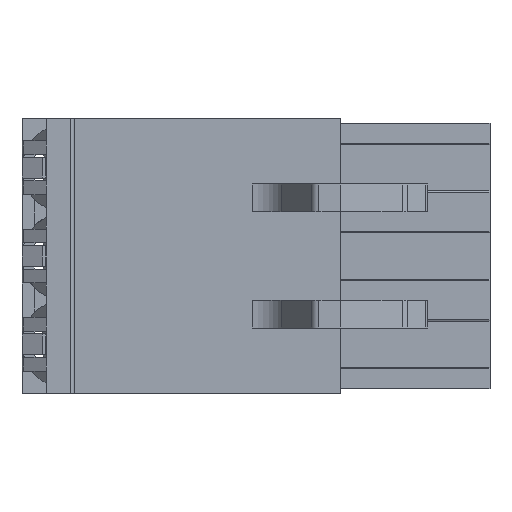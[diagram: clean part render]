
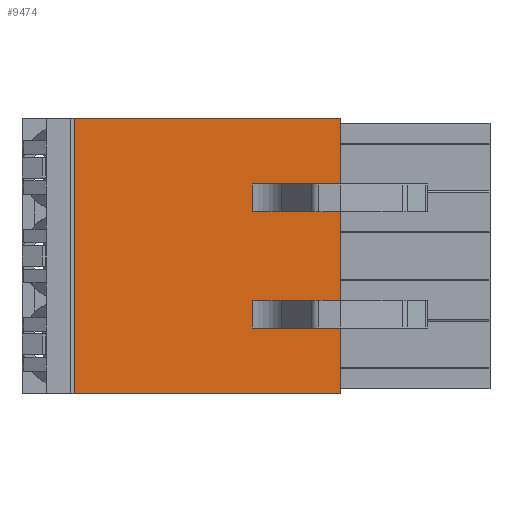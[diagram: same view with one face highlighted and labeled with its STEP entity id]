
A CAD part, front view. The second image highlights one B-rep face of the part: STEP entity #9474.
In plain terms, the highlighted planar face has unit normal (0, -1, 0).
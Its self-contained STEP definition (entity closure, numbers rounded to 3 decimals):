
#780=DIRECTION('',(-1.,0.,0.));
#781=VECTOR('',#780,5.075);
#782=CARTESIAN_POINT('',(18.302,1.,-15.55));
#783=LINE('',#782,#781);
#784=DIRECTION('',(1.,0.,0.));
#785=VECTOR('',#784,5.075);
#786=CARTESIAN_POINT('',(13.227,1.,-17.15));
#787=LINE('',#786,#785);
#788=DIRECTION('',(0.,0.,-1.));
#789=VECTOR('',#788,3.79);
#790=CARTESIAN_POINT('',(18.302,1.,-17.15));
#791=LINE('',#790,#789);
#792=DIRECTION('',(-1.,0.,0.));
#793=VECTOR('',#792,15.3);
#794=CARTESIAN_POINT('',(18.302,1.,-20.94));
#795=LINE('',#794,#793);
#796=DIRECTION('',(0.,0.,1.));
#797=VECTOR('',#796,15.86);
#798=CARTESIAN_POINT('',(3.002,1.,-20.94));
#799=LINE('',#798,#797);
#800=DIRECTION('',(1.,0.,0.));
#801=VECTOR('',#800,15.3);
#802=CARTESIAN_POINT('',(3.002,1.,-5.08));
#803=LINE('',#802,#801);
#804=DIRECTION('',(0.,0.,-1.));
#805=VECTOR('',#804,3.79);
#806=CARTESIAN_POINT('',(18.302,1.,-5.08));
#807=LINE('',#806,#805);
#808=DIRECTION('',(-1.,0.,0.));
#809=VECTOR('',#808,5.075);
#810=CARTESIAN_POINT('',(18.302,1.,-8.87));
#811=LINE('',#810,#809);
#812=DIRECTION('',(0.,0.,-1.));
#813=VECTOR('',#812,5.08);
#814=CARTESIAN_POINT('',(18.302,1.,-10.47));
#815=LINE('',#814,#813);
#1020=DIRECTION('',(0.,0.,1.));
#1021=VECTOR('',#1020,1.6);
#1022=CARTESIAN_POINT('',(13.227,1.,-17.15));
#1023=LINE('',#1022,#1021);
#5487=DIRECTION('',(-1.,0.,0.));
#5488=VECTOR('',#5487,5.075);
#5489=CARTESIAN_POINT('',(18.302,1.,-10.47));
#5490=LINE('',#5489,#5488);
#5563=DIRECTION('',(0.,0.,1.));
#5564=VECTOR('',#5563,1.6);
#5565=CARTESIAN_POINT('',(13.227,1.,-10.47));
#5566=LINE('',#5565,#5564);
#7000=CARTESIAN_POINT('',(3.002,1.,-20.94));
#7001=CARTESIAN_POINT('',(3.002,1.,-5.08));
#7002=VERTEX_POINT('',#7000);
#7003=VERTEX_POINT('',#7001);
#7004=CARTESIAN_POINT('',(18.302,1.,-15.55));
#7005=CARTESIAN_POINT('',(13.227,1.,-15.55));
#7006=VERTEX_POINT('',#7004);
#7007=VERTEX_POINT('',#7005);
#7008=CARTESIAN_POINT('',(13.227,1.,-17.15));
#7009=VERTEX_POINT('',#7008);
#7010=CARTESIAN_POINT('',(18.302,1.,-17.15));
#7011=VERTEX_POINT('',#7010);
#7012=CARTESIAN_POINT('',(18.302,1.,-20.94));
#7013=VERTEX_POINT('',#7012);
#7014=CARTESIAN_POINT('',(18.302,1.,-5.08));
#7015=VERTEX_POINT('',#7014);
#7016=CARTESIAN_POINT('',(18.302,1.,-8.87));
#7017=VERTEX_POINT('',#7016);
#7018=CARTESIAN_POINT('',(13.227,1.,-8.87));
#7019=VERTEX_POINT('',#7018);
#7020=CARTESIAN_POINT('',(13.227,1.,-10.47));
#7021=VERTEX_POINT('',#7020);
#7022=CARTESIAN_POINT('',(18.302,1.,-10.47));
#7023=VERTEX_POINT('',#7022);
#9447=CARTESIAN_POINT('',(10.652,1.,-20.63));
#9448=DIRECTION('',(0.,1.,0.));
#9449=DIRECTION('',(1.,0.,0.));
#9450=AXIS2_PLACEMENT_3D('',#9447,#9448,#9449);
#9451=PLANE('',#9450);
#9453=ORIENTED_EDGE('',*,*,#9452,.T.);
#9455=ORIENTED_EDGE('',*,*,#9454,.F.);
#9457=ORIENTED_EDGE('',*,*,#9456,.T.);
#9458=ORIENTED_EDGE('',*,*,#8928,.T.);
#9460=ORIENTED_EDGE('',*,*,#9459,.T.);
#9462=ORIENTED_EDGE('',*,*,#9461,.T.);
#9463=ORIENTED_EDGE('',*,*,#9163,.T.);
#9464=ORIENTED_EDGE('',*,*,#8944,.T.);
#9466=ORIENTED_EDGE('',*,*,#9465,.T.);
#9468=ORIENTED_EDGE('',*,*,#9467,.F.);
#9470=ORIENTED_EDGE('',*,*,#9469,.F.);
#9471=ORIENTED_EDGE('',*,*,#8936,.T.);
#9472=EDGE_LOOP('',(#9453,#9455,#9457,#9458,#9460,#9462,#9463,#9464,#9466,#9468,
#9470,#9471));
#9473=FACE_OUTER_BOUND('',#9472,.F.);
#9474=ADVANCED_FACE('',(#9473),#9451,.F.);
#8928=EDGE_CURVE('',#7011,#7013,#791,.T.);
#8936=EDGE_CURVE('',#7023,#7006,#815,.T.);
#8944=EDGE_CURVE('',#7015,#7017,#807,.T.);
#9163=EDGE_CURVE('',#7003,#7015,#803,.T.);
#9452=EDGE_CURVE('',#7006,#7007,#783,.T.);
#9454=EDGE_CURVE('',#7009,#7007,#1023,.T.);
#9456=EDGE_CURVE('',#7009,#7011,#787,.T.);
#9459=EDGE_CURVE('',#7013,#7002,#795,.T.);
#9461=EDGE_CURVE('',#7002,#7003,#799,.T.);
#9465=EDGE_CURVE('',#7017,#7019,#811,.T.);
#9467=EDGE_CURVE('',#7021,#7019,#5566,.T.);
#9469=EDGE_CURVE('',#7023,#7021,#5490,.T.);
